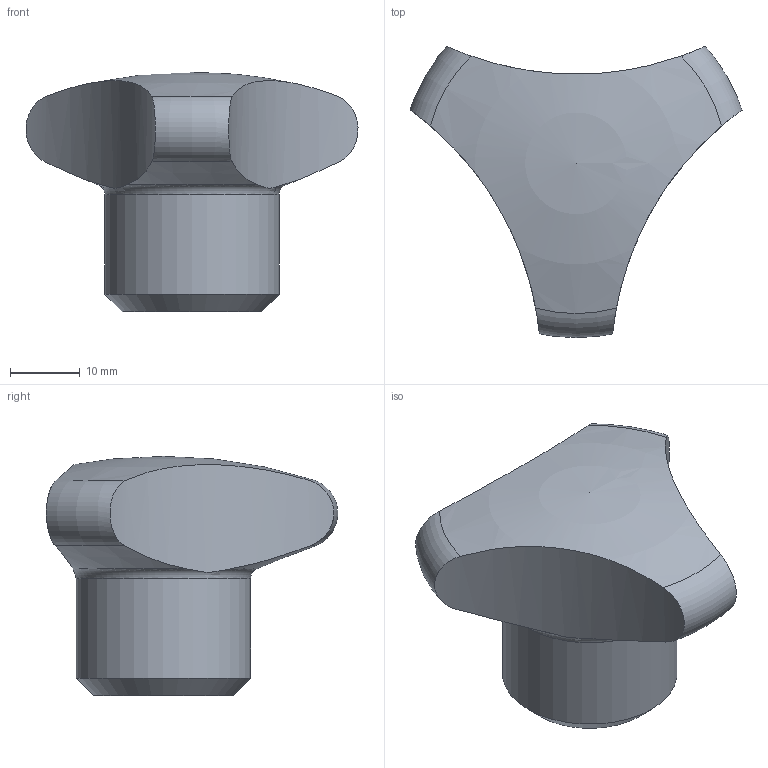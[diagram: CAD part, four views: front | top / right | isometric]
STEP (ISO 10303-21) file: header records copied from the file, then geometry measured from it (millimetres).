
FILE_DESCRIPTION( ('This file contains a STEP AP42 implementation' ,'as created by ZW3D STEP Interface translator.') ,'2;1' );
FILE_NAME( 'Pokretlo trojramienne 50.stp' ,'26 817. 72643', (''), ('ZWCAD Software Co.'), 'Version 1.0', 'ZW3D to STEP translator', '' );
FILE_SCHEMA(('AP242_MANAGED_MODEL_BASED_3D_ENGINEERING_MIM_LF { 1 0 10303 442 1 1 4 }'));
Length unit declared in the file: millimetre
Products named in the file (1): 0
Bounding box: 47.6 x 41.78 x 34.3 mm (x, y, z)
Volume: 21831.8 mm3; surface area: 7484.3 mm2
Topology: 2 solids, 2 shells, 21 faces, 48 edges, 31 vertices
Faces by surface type: cylinder 7, cone 5, torus 4, plane 4, sphere 1
Full cylindrical faces by diameter (mm): 6.8 x1, 13 x2, 25 x1
Entity records: 743 total; most frequent: CARTESIAN_POINT 243, DIRECTION 94, ORIENTED_EDGE 94, EDGE_CURVE 47, AXIS2_PLACEMENT_3D 44, VERTEX_POINT 31, EDGE_LOOP 24, CIRCLE 22
